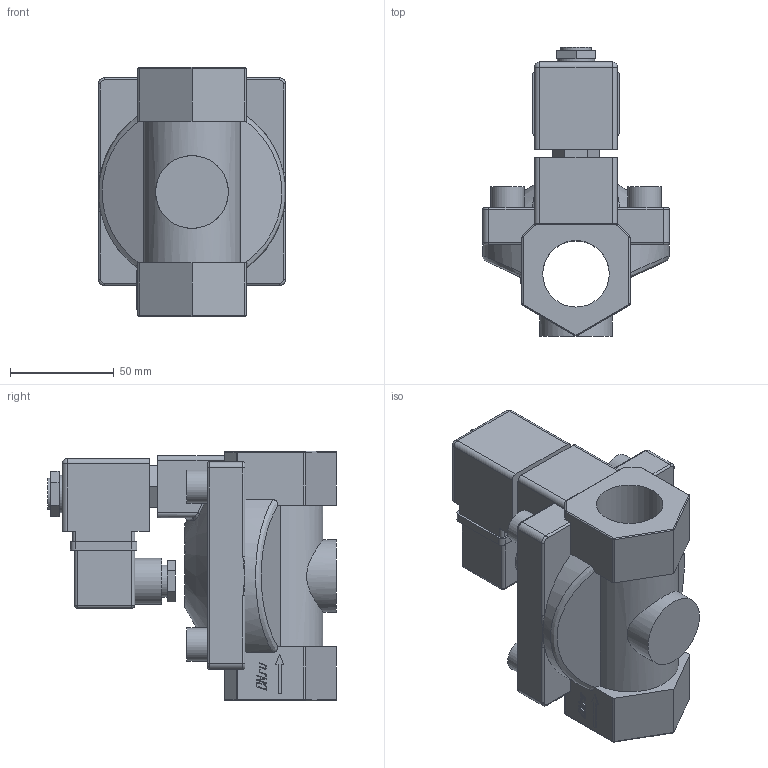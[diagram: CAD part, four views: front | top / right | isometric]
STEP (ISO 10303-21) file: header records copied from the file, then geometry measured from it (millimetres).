
FILE_DESCRIPTION(('STEP AP242'), '1');
FILE_NAME('VS431-VT-NC-24VAC 1 1-2 孰囡囗 尻蝠铎嚆龛蝽 DN.ru 捏40 畜16', '', ('UNSPECIFIED'), ('UNSPECIFIED'), 'C3D Converter', 'C3D Toolkit', '');
FILE_SCHEMA(('AP242_MANAGED_MODEL_BASED_3D_ENGINEERING_MIM_LF { 1 0 10303 442 1 1 4 }'));
Length unit declared in the file: millimetre
Products named in the file (1): VS431-VT-NC-24VAC 1 1-2
Bounding box: 90 x 139 x 120 mm (x, y, z)
Volume: 490678.8 mm3; surface area: 70599.8 mm2
Topology: 1 solids, 1 shells, 315 faces, 800 edges, 501 vertices
Faces by surface type: plane 151, cylinder 81, extrusion 40, torus 21, bspline 15, sphere 6, cone 1
Full cylindrical faces by diameter (mm): 15 x1, 15.5 x1, 16 x4, 18 x1, 22 x1, 32 x1, 35 x1
Entity records: 13909 total; most frequent: CARTESIAN_POINT 5662, ORIENTED_EDGE 1544, DIRECTION 1402, EDGE_CURVE 772, VECTOR 506, VERTEX_POINT 499, LINE 466, AXIS2_PLACEMENT_3D 448
